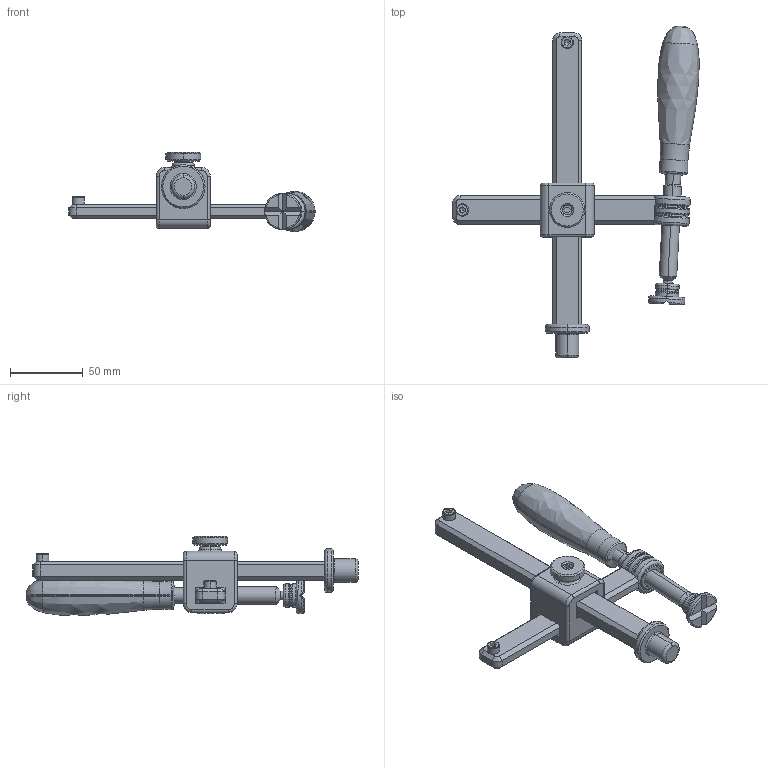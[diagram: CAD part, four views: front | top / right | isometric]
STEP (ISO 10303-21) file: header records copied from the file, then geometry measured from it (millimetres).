
FILE_DESCRIPTION (( 'STEP AP203' ), '1' );
FILE_NAME ('160610.STEP', '2020-07-09T09:38:06', ( '' ), ( '' ), 'SwSTEP 2.0', 'SolidWorks 2019', '' );
FILE_SCHEMA (( 'CONFIG_CONTROL_DESIGN' ));
Length unit declared in the file: millimetre
Products named in the file (19): Spindel^160634.3 Gewindespindel 75_Tr 12x3; 160618.1 Gewindebuchse Tr 12x3 Zwinge; 160662 Handrad f黵 Gusskreuz_Br乶iert; 160643 Horizontalstrebe mit Buchse_Nitriert; 160656 Prisma f黵 Schraubzwingen_Tr12x3_Br乶iert; O-ring DIN 3771 - 7x1.2_O-ring DIN 3771 - 7x1.8; 160610; 160632 Vertikalstrebe 200_20x13; DIN 912 M5 x 10 --- 10C- br黱iert_DIN 912 M5 x 10 --- 10C- br乶iert; 160617 Gusskreuz f黵 160606, 160610_Fl 20x13; DIN 913 - M8 x 16-C_DIN 913 - M8 x 16-C; O-Ring 11,8x1,8 DIN 3771; 160634.3 Gewindespindel 75_Tr 12x3_Nitriert; 160643 Horizontalstrebe 150; Rad^160662 Handrad f黵 Gusskreuz; 160656 Prisma für Schraubzwingen_Tr12x3_Nitriert; 160618.1 Gewindebuchse Tr 12x3 Zwinge_Nitriert; 160632 Vertikalstrebe 200_20x13_Nitriert; 160634_Griff_neu_19.6.12
Assembly tree (19 placements, depth 3):
  160610
    160632 Vertikalstrebe 200_20x13_Nitriert
      160632 Vertikalstrebe 200_20x13
      DIN 912 M5 x 10 --- 10C- br黱iert_DIN 912 M5 x 10 --- 10C- br乶iert
    160643 Horizontalstrebe mit Buchse_Nitriert
      160643 Horizontalstrebe 150
      DIN 912 M5 x 10 --- 10C- br黱iert_DIN 912 M5 x 10 --- 10C- br乶iert
    160618.1 Gewindebuchse Tr 12x3 Zwinge_Nitriert
      160618.1 Gewindebuchse Tr 12x3 Zwinge
    160617 Gusskreuz f黵 160606, 160610_Fl 20x13
    160634.3 Gewindespindel 75_Tr 12x3_Nitriert
      Spindel^160634.3 Gewindespindel 75_Tr 12x3
      160634_Griff_neu_19.6.12
    160656 Prisma für Schraubzwingen_Tr12x3_Nitriert
      160656 Prisma f黵 Schraubzwingen_Tr12x3_Br乶iert
      O-Ring 11,8x1,8 DIN 3771
      O-ring DIN 3771 - 7x1.2_O-ring DIN 3771 - 7x1.8
    160662 Handrad f黵 Gusskreuz_Br乶iert
      Rad^160662 Handrad f黵 Gusskreuz
      DIN 913 - M8 x 16-C_DIN 913 - M8 x 16-C
Bounding box: 169.07 x 227.79 x 54.44 mm (x, y, z)
Volume: 192240.4 mm3; surface area: 71463.7 mm2
Topology: 15 solids, 16 shells, 469 faces, 1002 edges, 579 vertices
Faces by surface type: plane 140, torus 124, cylinder 113, cone 62, bspline 18, sphere 12
Entity records: 14960 total; most frequent: CARTESIAN_POINT 3161, DIRECTION 2306, ORIENTED_EDGE 1874, AXIS2_PLACEMENT_3D 968, EDGE_CURVE 937, VERTEX_POINT 543, CIRCLE 516, EDGE_LOOP 482
